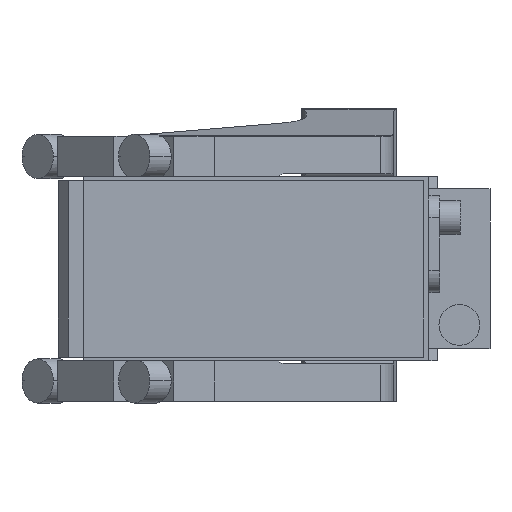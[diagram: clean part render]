
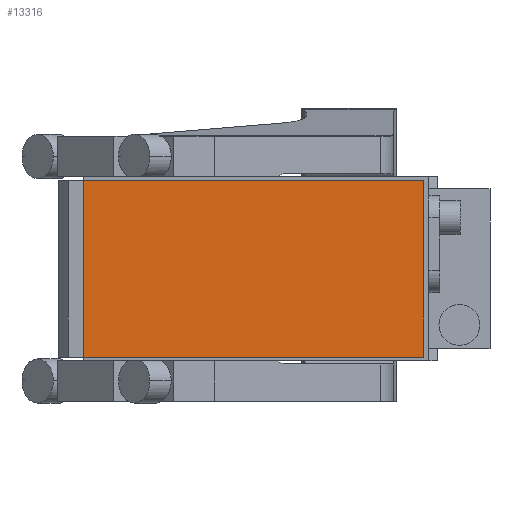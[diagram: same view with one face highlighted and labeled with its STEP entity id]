
A CAD part, front view. The second image highlights one B-rep face of the part: STEP entity #13316.
In plain terms, the highlighted planar face has unit normal (0, -1, 0).
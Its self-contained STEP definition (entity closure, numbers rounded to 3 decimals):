
#496 = ORIENTED_EDGE ( 'NONE', *, *, #9993, .T. ) ;
#1088 = FACE_OUTER_BOUND ( 'NONE', #8221, .T. ) ;
#1291 = VECTOR ( 'NONE', #3249, 1000. ) ;
#1462 = DIRECTION ( 'NONE',  ( 0., 0., 1. ) ) ;
#1770 = VERTEX_POINT ( 'NONE', #3905 ) ;
#2061 = CARTESIAN_POINT ( 'NONE',  ( -19., -286.5, -26. ) ) ;
#2683 = EDGE_CURVE ( 'NONE', #1770, #11054, #8643, .T. ) ;
#3249 = DIRECTION ( 'NONE',  ( 0., 0., -1. ) ) ;
#3343 = LINE ( 'NONE', #7725, #5717 ) ;
#3389 = AXIS2_PLACEMENT_3D ( 'NONE', #9743, #8673, #10964 ) ;
#3833 = CARTESIAN_POINT ( 'NONE',  ( 81., -286.5, 26. ) ) ;
#3905 = CARTESIAN_POINT ( 'NONE',  ( -19., -286.5, 26. ) ) ;
#3916 = CARTESIAN_POINT ( 'NONE',  ( 81., -286.5, -26. ) ) ;
#4957 = ORIENTED_EDGE ( 'NONE', *, *, #2683, .T. ) ;
#5717 = VECTOR ( 'NONE', #10887, 1000. ) ;
#5901 = DIRECTION ( 'NONE',  ( 1., 0., 0. ) ) ;
#6258 = VECTOR ( 'NONE', #5901, 1000. ) ;
#6588 = PLANE ( 'NONE',  #3389 ) ;
#7228 = LINE ( 'NONE', #11540, #6258 ) ;
#7725 = CARTESIAN_POINT ( 'NONE',  ( -19., -286.5, 26. ) ) ;
#8221 = EDGE_LOOP ( 'NONE', ( #4957, #496, #14045, #11430 ) ) ;
#8643 = LINE ( 'NONE', #11864, #1291 ) ;
#8673 = DIRECTION ( 'NONE',  ( 0., -1., 0. ) ) ;
#9743 = CARTESIAN_POINT ( 'NONE',  ( 0., -286.5, 0. ) ) ;
#9955 = VERTEX_POINT ( 'NONE', #3916 ) ;
#9993 = EDGE_CURVE ( 'NONE', #11054, #9955, #7228, .T. ) ;
#10122 = CARTESIAN_POINT ( 'NONE',  ( 81., -286.5, 26. ) ) ;
#10887 = DIRECTION ( 'NONE',  ( -1., 0., 0. ) ) ;
#10925 = VECTOR ( 'NONE', #1462, 1000. ) ;
#10964 = DIRECTION ( 'NONE',  ( 0., 0., -1. ) ) ;
#11054 = VERTEX_POINT ( 'NONE', #2061 ) ;
#11273 = LINE ( 'NONE', #10122, #10925 ) ;
#11430 = ORIENTED_EDGE ( 'NONE', *, *, #11985, .T. ) ;
#11540 = CARTESIAN_POINT ( 'NONE',  ( -19., -286.5, -26. ) ) ;
#11864 = CARTESIAN_POINT ( 'NONE',  ( -19., -286.5, 26. ) ) ;
#11985 = EDGE_CURVE ( 'NONE', #13500, #1770, #3343, .T. ) ;
#13316 = ADVANCED_FACE ( 'NONE', ( #1088 ), #6588, .T. ) ;
#13500 = VERTEX_POINT ( 'NONE', #3833 ) ;
#13835 = EDGE_CURVE ( 'NONE', #9955, #13500, #11273, .T. ) ;
#14045 = ORIENTED_EDGE ( 'NONE', *, *, #13835, .T. ) ;
